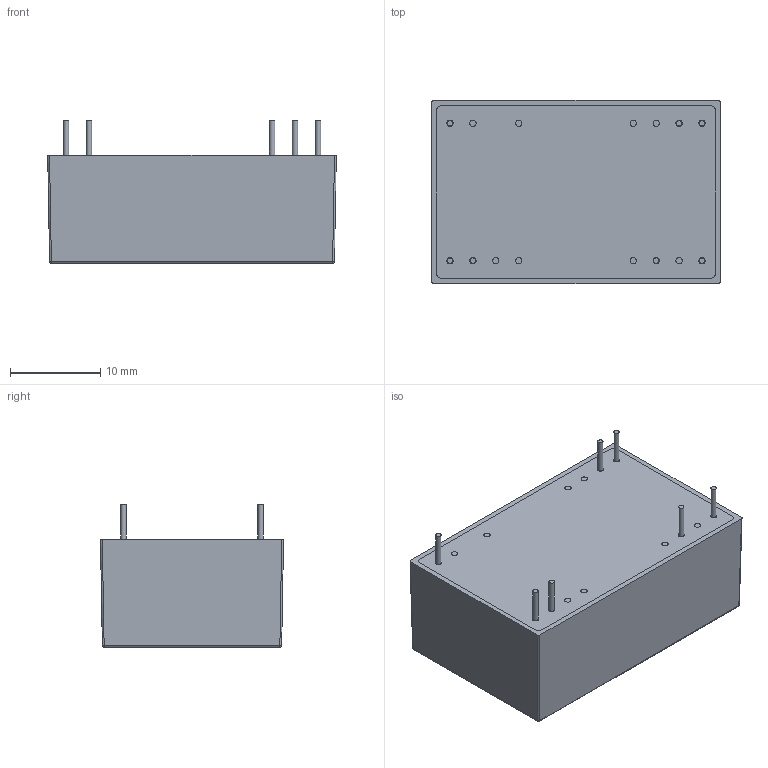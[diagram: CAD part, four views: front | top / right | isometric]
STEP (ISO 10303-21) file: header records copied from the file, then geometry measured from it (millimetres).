
FILE_DESCRIPTION(/* description */ (''),/* implementation_level */ '2;1');
FILE_NAME(/* name */ 'C:\Users\Calliope\Desktop\RDE03.stp',/* time_stamp */ '2017-11-10T15:24:21+08:00',/* author */ ('Calliope'),/* organization */ (''),/* preprocessor_version */ 'ST-DEVELOPER v15.6',/* originating_system */ 'Autodesk Inventor 2015',/* authorisation */ '');
FILE_SCHEMA (('AUTOMOTIVE_DESIGN { 1 0 10303 214 3 1 1 }'));
Length unit declared in the file: millimetre
Products named in the file (1): RDE03
Bounding box: 32 x 20.3 x 15.8 mm (x, y, z)
Volume: 7670.7 mm3; surface area: 2560.3 mm2
Topology: 1 solids, 1 shells, 48 faces, 84 edges, 57 vertices
Faces by surface type: plane 29, cylinder 15, sphere 4
Full cylindrical faces by diameter (mm): 0.6 x7
Entity records: 1150 total; most frequent: DIRECTION 220, CARTESIAN_POINT 179, ORIENTED_EDGE 146, AXIS2_PLACEMENT_3D 98, EDGE_LOOP 78, EDGE_CURVE 73, VERTEX_POINT 57, CIRCLE 49
